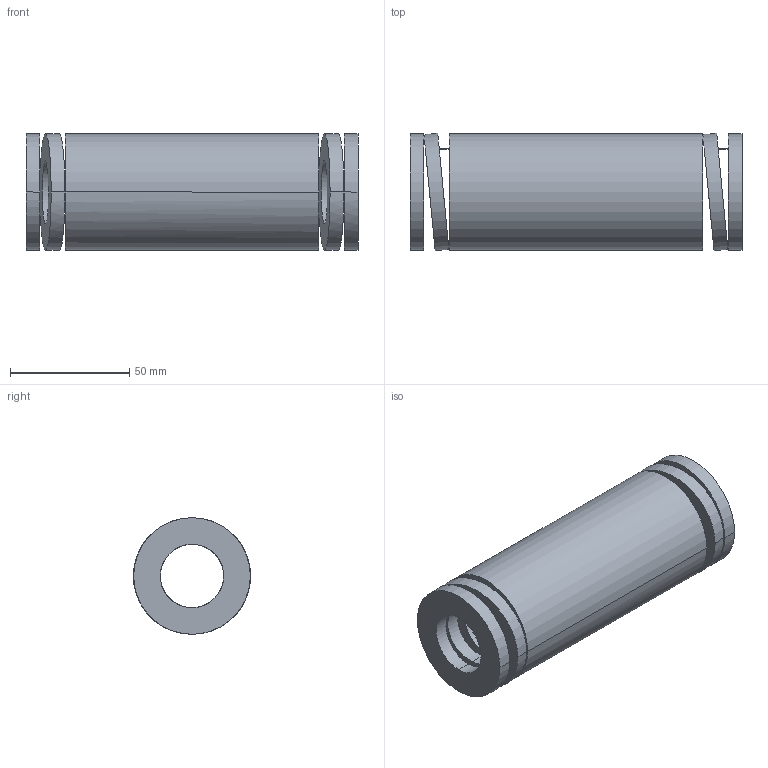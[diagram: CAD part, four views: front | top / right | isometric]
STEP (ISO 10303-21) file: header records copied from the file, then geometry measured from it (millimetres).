
FILE_DESCRIPTION(('CATIA V5 STEP Exchange'),'2;1');
FILE_NAME('C:\Users\Utente\Desktop\IO LAVORO\3D X SITO CF\X SITO\3D files 392B\392-B50-139.stp','2021-08-13T11:27:55+00:00',('none'),('none'),'CATIA Version 5 Release 20 GA (IN-10)','CATIA V5 STEP AP203','none');
FILE_SCHEMA(('CONFIG_CONTROL_DESIGN'));
Length unit declared in the file: millimetre
Products named in the file (1): 392-B50-139
Bounding box: 139 x 49.13 x 48.8 mm (x, y, z)
Volume: 170043.8 mm3; surface area: 43790.5 mm2
Topology: 1 solids, 1 shells, 38 faces, 92 edges, 64 vertices
Faces by surface type: cylinder 28, plane 10
Entity records: 1638 total; most frequent: CARTESIAN_POINT 761, ORIENTED_EDGE 184, DIRECTION 123, EDGE_CURVE 92, VERTEX_POINT 64, AXIS2_PLACEMENT_3D 58, EDGE_LOOP 56, B_SPLINE_CURVE_WITH_KNOTS 45
